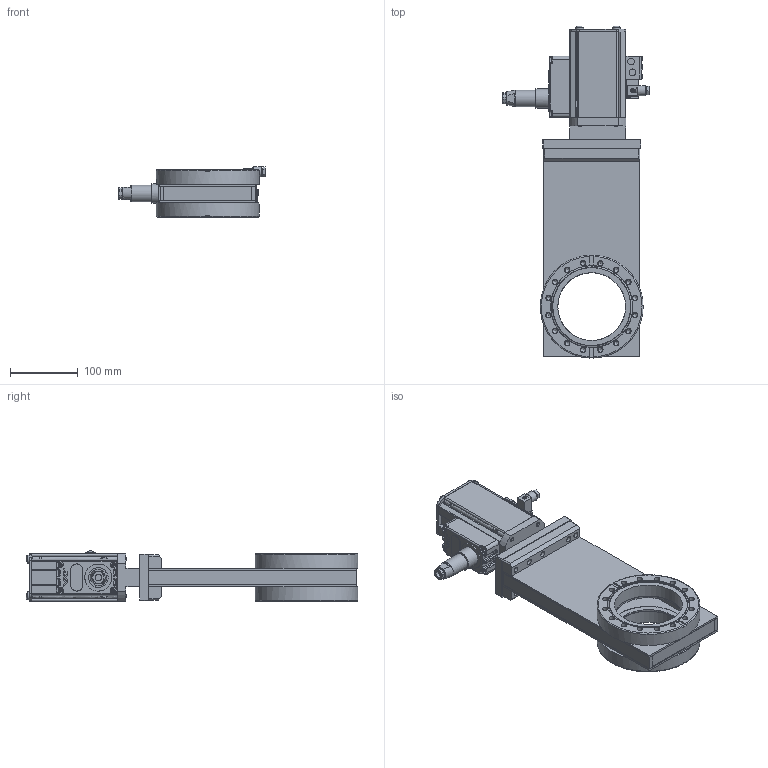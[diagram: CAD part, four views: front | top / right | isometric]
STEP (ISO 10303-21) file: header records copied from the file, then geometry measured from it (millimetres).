
FILE_DESCRIPTION((''),'2;1');
FILE_NAME('O:\MT\MT\Systeme\Cad\Datenexporte\www_vat_ch\212282.stp','2005-07-01T13:37:49',('User'),('SDRC'),'I-DEAS Master Series 9','UNIX','Yes');
FILE_SCHEMA(('CONFIG_CONTROL_DESIGN'));
Length unit declared in the file: millimetre
Assembly tree (45 placements, depth 0):
Bounding box: 216.15 x 489.89 x 74.34 mm (x, y, z)
Volume: 1527011.9 mm3; surface area: 528191.8 mm2
Topology: 40 solids, 40 shells, 1240 faces, 2868 edges, 1830 vertices
Faces by surface type: bspline 1240
Entity records: 32529 total; most frequent: CARTESIAN_POINT 16019, ORIENTED_EDGE 4034, EDGE_CURVE 2017, VERTEX_POINT 1303, EDGE_LOOP 1094, FACE_OUTER_BOUND 877, ADVANCED_FACE 877, QUASI_UNIFORM_CURVE 726
